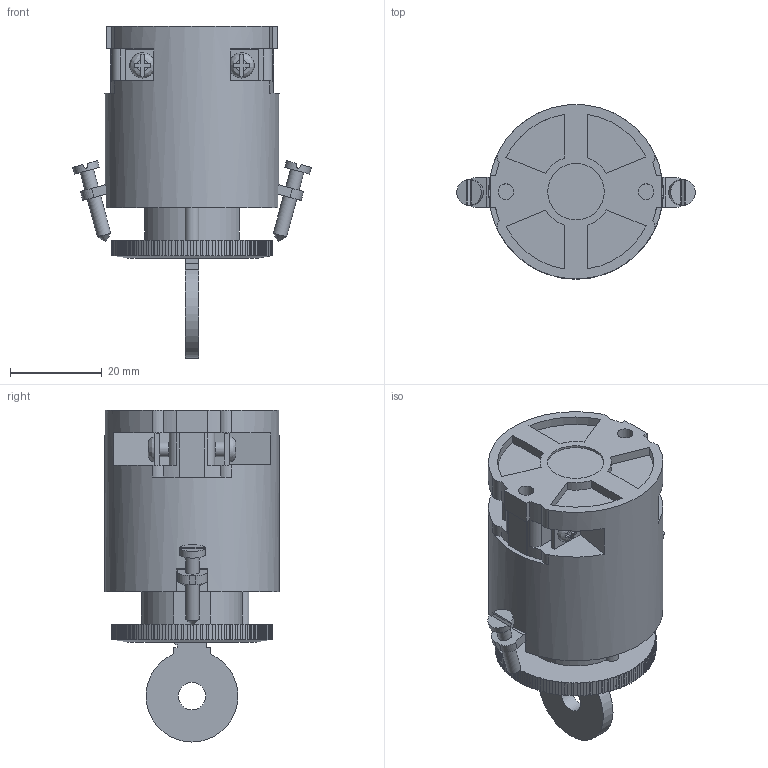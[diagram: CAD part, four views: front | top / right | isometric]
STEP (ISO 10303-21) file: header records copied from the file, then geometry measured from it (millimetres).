
FILE_DESCRIPTION(/* description */ (''),/* implementation_level */ '2;1');
FILE_NAME(/* name */ '4G10-U_wykonanie_S10_1_korpus.stp',/* time_stamp */ '2021-07-21T08:08:31+02:00',/* author */ (''),/* organization */ (''),/* preprocessor_version */ 'ST-DEVELOPER v18.1',/* originating_system */ 'SIEMENS PLM Software NX 1965',/* authorisation */ '');
FILE_SCHEMA (('AUTOMOTIVE_DESIGN { 1 0 10303 214 3 1 1 1 }'));
Length unit declared in the file: millimetre
Products named in the file (1): 4G10-U_wykonanie_S10_1_korpus_stp
Bounding box: 51.98 x 38 x 72.28 mm (x, y, z)
Volume: 48580.6 mm3; surface area: 13211.2 mm2
Topology: 1 solids, 3 shells, 591 faces, 1681 edges, 1120 vertices
Faces by surface type: plane 437, cylinder 144, cone 4, bspline 4, torus 2
Full cylindrical faces by diameter (mm): 3 x4, 3.2 x4, 3.4 x4, 5.5 x2, 5.6 x2, 6 x1, 12.3 x1, 15.8 x1, 16.1 x1, 38 x1
Entity records: 19064 total; most frequent: CARTESIAN_POINT 3810, ORIENTED_EDGE 3254, DIRECTION 3042, EDGE_CURVE 1627, LINE 1132, VECTOR 1132, VERTEX_POINT 1099, AXIS2_PLACEMENT_3D 955
